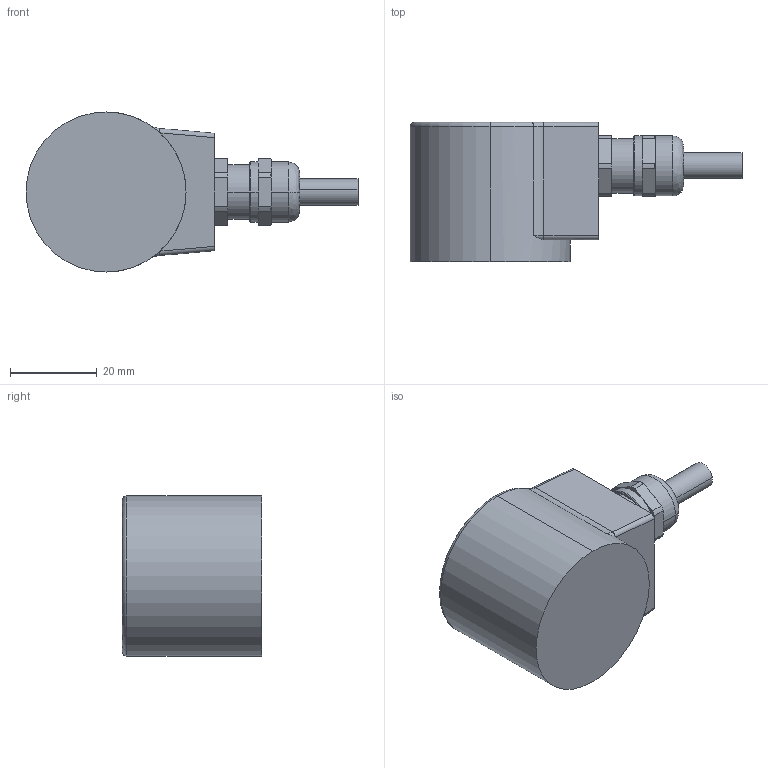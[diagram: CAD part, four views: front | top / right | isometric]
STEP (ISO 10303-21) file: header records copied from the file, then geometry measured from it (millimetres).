
FILE_DESCRIPTION (( 'STEP AP203' ), '1' );
FILE_NAME ('Drawing-MC-3-CR-320-SZM-NNN12T-N-ARW-N.STEP', '2013-04-25T09:08:39', ( '' ), ( '' ), 'SwSTEP 2.0', 'SolidWorks 2006104', '' );
FILE_SCHEMA (( 'CONFIG_CONTROL_DESIGN' ));
Length unit declared in the file: millimetre
Products named in the file (1): Drawing-MC-3-CR-320-SZM-NNN12T-N-ARW-N
Bounding box: 76.33 x 32 x 36.8 mm (x, y, z)
Volume: 13801.7 mm3; surface area: 14381.2 mm2
Topology: 3 solids, 3 shells, 119 faces, 297 edges, 192 vertices
Faces by surface type: plane 64, cylinder 36, cone 8, torus 7, bspline 4
Entity records: 3891 total; most frequent: CARTESIAN_POINT 965, ORIENTED_EDGE 594, DIRECTION 590, EDGE_CURVE 297, AXIS2_PLACEMENT_3D 205, VERTEX_POINT 192, VECTOR 180, LINE 180
